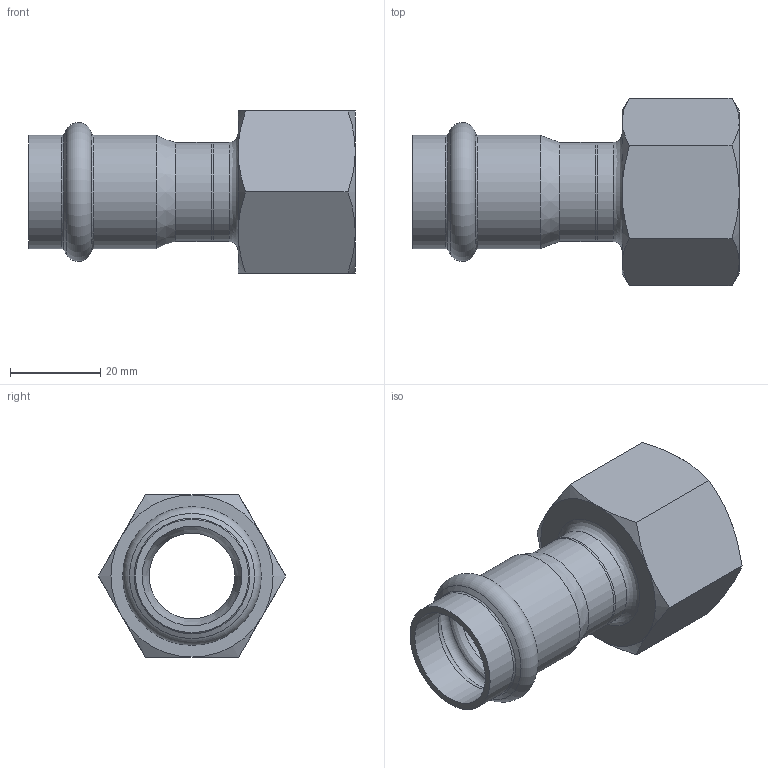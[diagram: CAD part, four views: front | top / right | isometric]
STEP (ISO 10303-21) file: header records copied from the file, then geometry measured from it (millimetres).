
FILE_DESCRIPTION((''),'2;1');
FILE_NAME('G:\Nirosan-Schmiedefeld\Technics\CAD\001 Serie 9.000\022\69270G221H(2).stp','2018-08-28T08:56:02',('herberg'),(''),'Autodesk Inventor 2009','Autodesk Inventor 2009','');
FILE_SCHEMA(('AUTOMOTIVE_DESIGN { 1 0 10303 214 1 1 1 1 }'));
Products named in the file (3): 69270G221H(2); 69HM22P(1); 69ATIG221P(0)
Assembly tree (2 placements, depth 2):
  69270G221H(2)
    69HM22P(1)
    69ATIG221P(0)
Bounding box: 72.5 x 41.57 x 36 mm (x, y, z)
Volume: 17561.3 mm3; surface area: 14513 mm2
Topology: 2 solids, 2 shells, 45 faces, 92 edges, 53 vertices
Faces by surface type: cone 17, plane 11, bspline 8, cylinder 7, torus 2
Full cylindrical faces by diameter (mm): 19 x1, 22 x2, 22.15 x2, 25.15 x2
Entity records: 1324 total; most frequent: CARTESIAN_POINT 473, DIRECTION 166, ORIENTED_EDGE 136, AXIS2_PLACEMENT_3D 80, EDGE_LOOP 72, EDGE_CURVE 68, VERTEX_POINT 50, FACE_OUTER_BOUND 45
